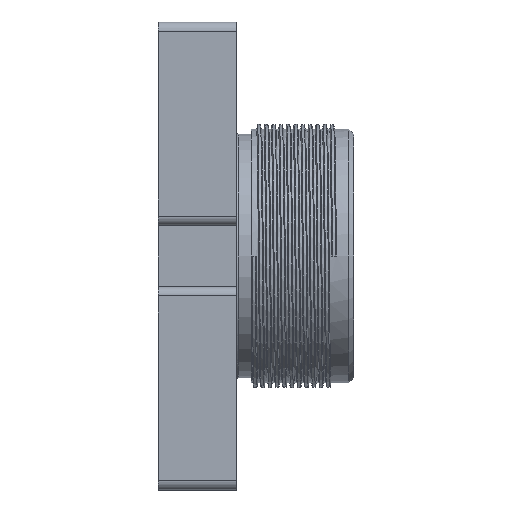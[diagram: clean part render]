
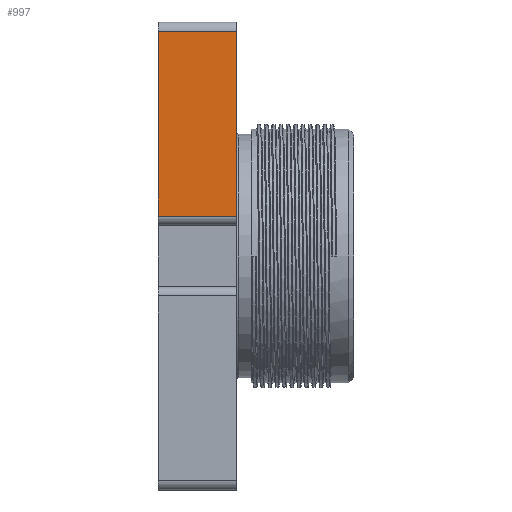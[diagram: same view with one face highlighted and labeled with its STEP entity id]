
A CAD part, left-side view. The second image highlights one B-rep face of the part: STEP entity #997.
In plain terms, the highlighted planar face has unit normal (-1, 0, 0).
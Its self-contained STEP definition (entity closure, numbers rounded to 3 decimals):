
#249 = FACE_OUTER_BOUND ( 'NONE', #1139, .T. ) ;
#313 = DIRECTION ( 'NONE',  ( 0., 1., 0. ) ) ;
#335 = EDGE_CURVE ( 'NONE', #591, #3723, #1255, .T. ) ;
#406 = AXIS2_PLACEMENT_3D ( 'NONE', #2355, #2509, #3926 ) ;
#586 = ORIENTED_EDGE ( 'NONE', *, *, #2075, .T. ) ;
#591 = VERTEX_POINT ( 'NONE', #2302 ) ;
#648 = CARTESIAN_POINT ( 'NONE',  ( -36., 0., 23. ) ) ;
#657 = CARTESIAN_POINT ( 'NONE',  ( -36., 8., 23. ) ) ;
#782 = DIRECTION ( 'NONE',  ( 0., -1., 0. ) ) ;
#997 = ADVANCED_FACE ( 'NONE', ( #249 ), #4299, .F. ) ;
#1139 = EDGE_LOOP ( 'NONE', ( #2685, #586, #3069, #3174 ) ) ;
#1242 = VECTOR ( 'NONE', #3984, 1000. ) ;
#1255 = LINE ( 'NONE', #4049, #1242 ) ;
#1373 = CARTESIAN_POINT ( 'NONE',  ( -36., 4., 4.1 ) ) ;
#1376 = VERTEX_POINT ( 'NONE', #3605 ) ;
#1546 = VECTOR ( 'NONE', #782, 1000. ) ;
#1797 = DIRECTION ( 'NONE',  ( 0., 0., 1. ) ) ;
#2010 = LINE ( 'NONE', #2882, #1546 ) ;
#2075 = EDGE_CURVE ( 'NONE', #1376, #3684, #3234, .T. ) ;
#2141 = CARTESIAN_POINT ( 'NONE',  ( -36., 0., 0. ) ) ;
#2302 = CARTESIAN_POINT ( 'NONE',  ( -36., 8., 4.1 ) ) ;
#2355 = CARTESIAN_POINT ( 'NONE',  ( -36., 0., 23. ) ) ;
#2509 = DIRECTION ( 'NONE',  ( 1., 0., 0. ) ) ;
#2685 = ORIENTED_EDGE ( 'NONE', *, *, #2843, .F. ) ;
#2843 = EDGE_CURVE ( 'NONE', #1376, #591, #3951, .T. ) ;
#2882 = CARTESIAN_POINT ( 'NONE',  ( -36., 4., 23. ) ) ;
#3065 = VECTOR ( 'NONE', #1797, 1000. ) ;
#3069 = ORIENTED_EDGE ( 'NONE', *, *, #4077, .F. ) ;
#3174 = ORIENTED_EDGE ( 'NONE', *, *, #335, .F. ) ;
#3234 = LINE ( 'NONE', #2141, #3065 ) ;
#3605 = CARTESIAN_POINT ( 'NONE',  ( -36., 0., 4.1 ) ) ;
#3684 = VERTEX_POINT ( 'NONE', #648 ) ;
#3723 = VERTEX_POINT ( 'NONE', #657 ) ;
#3926 = DIRECTION ( 'NONE',  ( 0., 0., -1. ) ) ;
#3951 = LINE ( 'NONE', #1373, #4403 ) ;
#3984 = DIRECTION ( 'NONE',  ( 0., 0., 1. ) ) ;
#4049 = CARTESIAN_POINT ( 'NONE',  ( -36., 8., 0. ) ) ;
#4077 = EDGE_CURVE ( 'NONE', #3723, #3684, #2010, .T. ) ;
#4299 = PLANE ( 'NONE',  #406 ) ;
#4403 = VECTOR ( 'NONE', #313, 1000. ) ;
